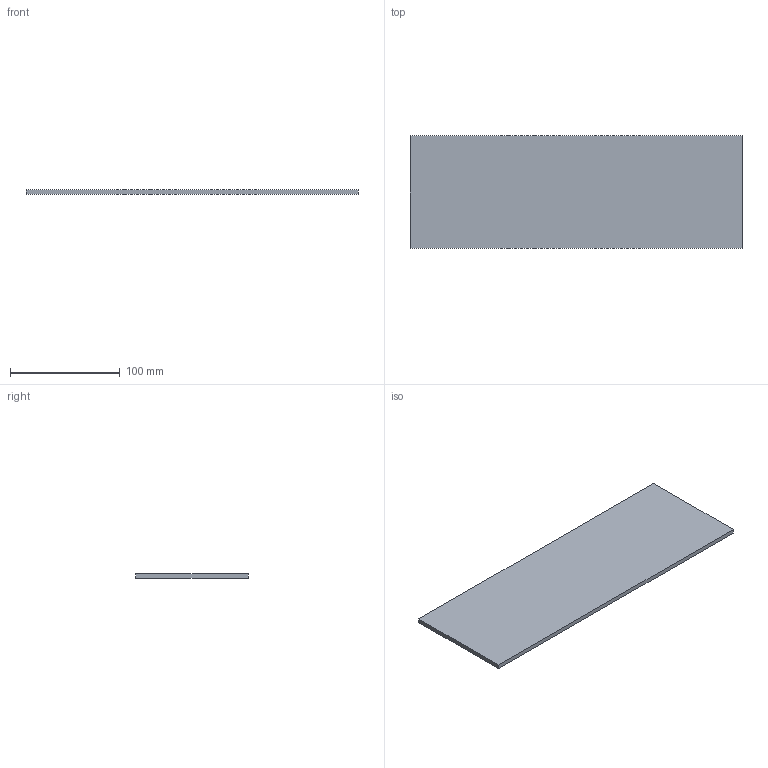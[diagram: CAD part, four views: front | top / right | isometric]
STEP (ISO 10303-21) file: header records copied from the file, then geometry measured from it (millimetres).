
FILE_DESCRIPTION (( 'STEP AP203' ), '1' );
FILE_NAME ('Complément_isolation_fond.STEP', '2026-06-24T07:29:49', ( '' ), ( '' ), 'SwSTEP 2.0', 'SolidWorks 2024', '' );
FILE_SCHEMA (( 'CONFIG_CONTROL_DESIGN' ));
Length unit declared in the file: millimetre
Products named in the file (1): Complément_isolation_fond
Bounding box: 303 x 103 x 4 mm (x, y, z)
Volume: 124836 mm3; surface area: 65666 mm2
Topology: 1 solids, 1 shells, 6 faces, 12 edges, 8 vertices
Faces by surface type: plane 6
Entity records: 231 total; most frequent: CARTESIAN_POINT 27, DIRECTION 26, ORIENTED_EDGE 24, LINE 12, EDGE_CURVE 12, VECTOR 12, PERSON_AND_ORGANIZATION 8, VERTEX_POINT 8
